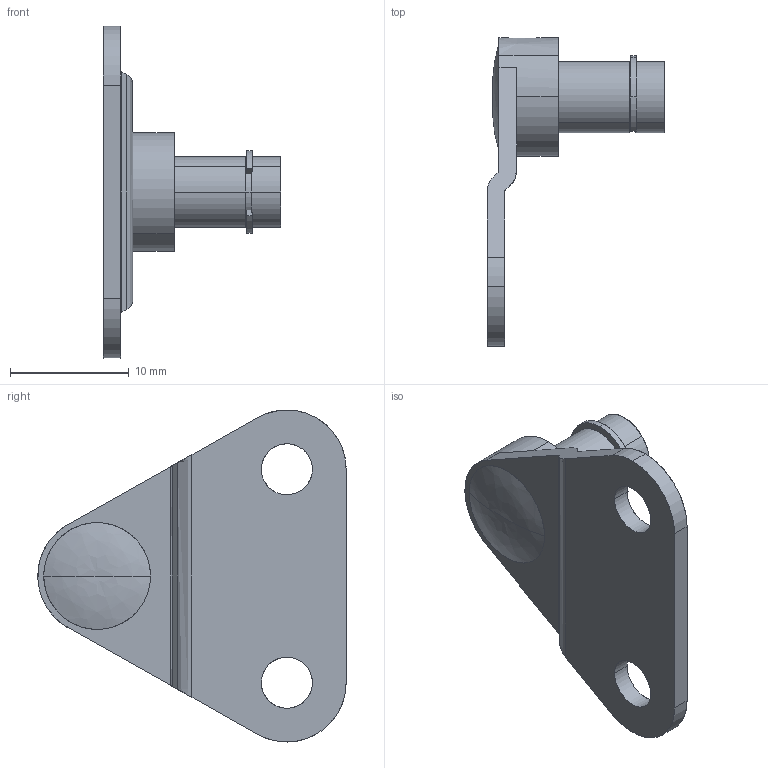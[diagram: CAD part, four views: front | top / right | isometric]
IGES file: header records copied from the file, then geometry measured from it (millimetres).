
Start section: SolidWorks IGES file using analytic representation for surfaces
Global section: file name: C:\3D-DATA\型式\ガススプリング\取付金具\ACEデータ\OA5.IGS; native system: SolidWorks 2007; preprocessor: SolidWorks 2007; author: SW; date: 120619.102038; units: millimetre
Bounding box: 15 x 26 x 28 mm (x, y, z)
Surface area: 1460.6 mm2 (no closed solid volume)
Topology: 0 solids, 0 shells, 59 faces, 852 edges, 850 vertices
Faces by surface type: revolution 40, bspline 19
